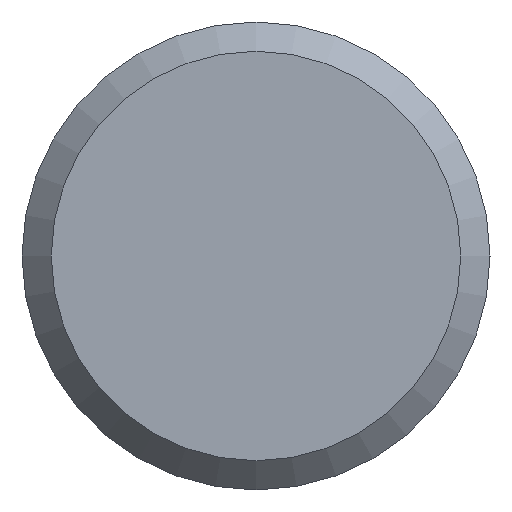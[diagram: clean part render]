
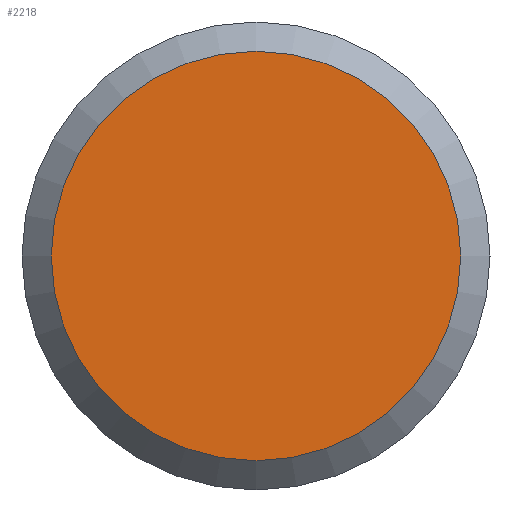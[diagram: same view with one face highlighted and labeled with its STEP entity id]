
A CAD part, left-side view. The second image highlights one B-rep face of the part: STEP entity #2218.
In plain terms, the highlighted planar face has unit normal (-1, 0, 0).
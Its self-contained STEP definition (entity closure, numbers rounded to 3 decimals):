
#805=PLANE('',#2036);
#833=ORIENTED_EDGE('',*,*,#1123,.F.);
#975=CIRCLE('',#2035,3.5);
#1049=VERTEX_POINT('',#1812);
#1123=EDGE_CURVE('',#1049,#1049,#975,.T.);
#1203=EDGE_LOOP('',(#833));
#1351=FACE_BOUND('',#1203,.T.);
#1510=DIRECTION('',(1.,0.,0.));
#1511=DIRECTION('',(0.,-3.5,0.));
#1512=DIRECTION('',(-1.,0.,0.));
#1513=DIRECTION('',(0.,1.,0.));
#1812=CARTESIAN_POINT('',(55.952,162.597,0.));
#1813=CARTESIAN_POINT('',(55.952,166.097,0.));
#1814=CARTESIAN_POINT('',(55.952,166.097,0.));
#2035=AXIS2_PLACEMENT_3D('',#1813,#1510,#1511);
#2036=AXIS2_PLACEMENT_3D('',#1814,#1512,#1513);
#2218=ADVANCED_FACE('',(#1351),#805,.T.);
